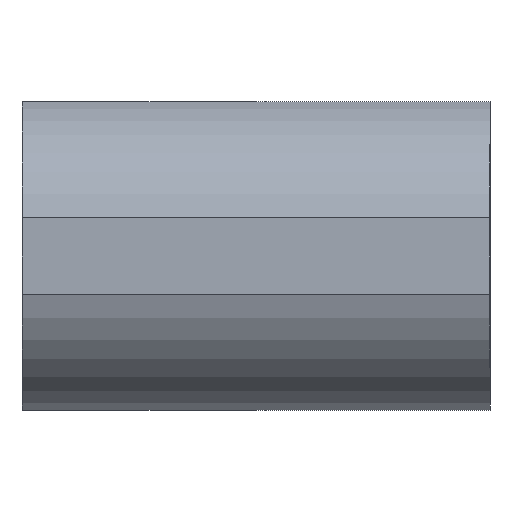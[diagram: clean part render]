
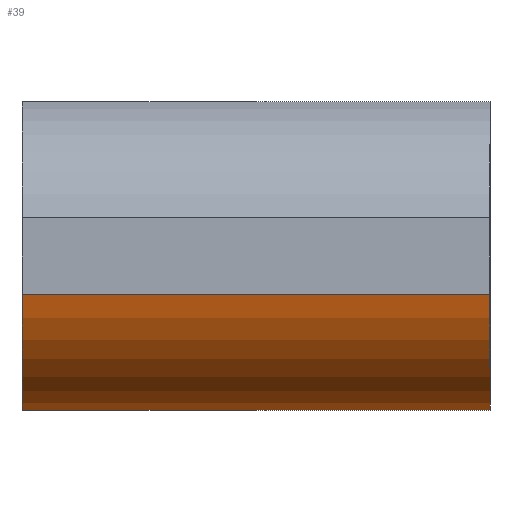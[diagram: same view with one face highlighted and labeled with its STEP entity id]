
A CAD part, left-side view. The second image highlights one B-rep face of the part: STEP entity #39.
In plain terms, the highlighted cylindrical face has radius 17 mm (diameter 34 mm), a partial arc.
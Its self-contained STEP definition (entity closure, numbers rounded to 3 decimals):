
#15 = ORIENTED_EDGE ( 'NONE', *, *, #566, .T. ) ;
#39 = ADVANCED_FACE ( 'NONE', ( #329 ), #294, .T. ) ;
#40 = CARTESIAN_POINT ( 'NONE',  ( -4.093, 25., -16.5 ) ) ;
#71 = VECTOR ( 'NONE', #583, 1000. ) ;
#86 = CARTESIAN_POINT ( 'NONE',  ( 0., 25., 0. ) ) ;
#98 = VERTEX_POINT ( 'NONE', #333 ) ;
#101 = ORIENTED_EDGE ( 'NONE', *, *, #547, .T. ) ;
#114 = DIRECTION ( 'NONE',  ( 0., 0., -1. ) ) ;
#131 = CARTESIAN_POINT ( 'NONE',  ( -16.5, 25., -4.093 ) ) ;
#152 = CARTESIAN_POINT ( 'NONE',  ( -4.093, -25., -16.5 ) ) ;
#157 = CIRCLE ( 'NONE', #279, 17. ) ;
#178 = DIRECTION ( 'NONE',  ( 0., 1., 0. ) ) ;
#179 = ORIENTED_EDGE ( 'NONE', *, *, #273, .F. ) ;
#208 = EDGE_LOOP ( 'NONE', ( #179, #362, #101, #15 ) ) ;
#223 = LINE ( 'NONE', #40, #71 ) ;
#232 = DIRECTION ( 'NONE',  ( 0., 1., 0. ) ) ;
#271 = VERTEX_POINT ( 'NONE', #131 ) ;
#273 = EDGE_CURVE ( 'NONE', #98, #271, #488, .T. ) ;
#279 = AXIS2_PLACEMENT_3D ( 'NONE', #436, #309, #573 ) ;
#294 = CYLINDRICAL_SURFACE ( 'NONE', #479, 17. ) ;
#309 = DIRECTION ( 'NONE',  ( 0., 1., 0. ) ) ;
#329 = FACE_OUTER_BOUND ( 'NONE', #208, .T. ) ;
#333 = CARTESIAN_POINT ( 'NONE',  ( -4.093, 25., -16.5 ) ) ;
#343 = CARTESIAN_POINT ( 'NONE',  ( -16.5, 25., -4.093 ) ) ;
#362 = ORIENTED_EDGE ( 'NONE', *, *, #401, .T. ) ;
#401 = EDGE_CURVE ( 'NONE', #98, #469, #223, .T. ) ;
#434 = VECTOR ( 'NONE', #178, 1000. ) ;
#436 = CARTESIAN_POINT ( 'NONE',  ( 0., -25., 0. ) ) ;
#440 = AXIS2_PLACEMENT_3D ( 'NONE', #86, #232, #542 ) ;
#451 = CARTESIAN_POINT ( 'NONE',  ( -16.5, -25., -4.093 ) ) ;
#469 = VERTEX_POINT ( 'NONE', #152 ) ;
#474 = LINE ( 'NONE', #343, #434 ) ;
#479 = AXIS2_PLACEMENT_3D ( 'NONE', #555, #546, #114 ) ;
#488 = CIRCLE ( 'NONE', #440, 17. ) ;
#492 = VERTEX_POINT ( 'NONE', #451 ) ;
#542 = DIRECTION ( 'NONE',  ( 0., 0., 1. ) ) ;
#546 = DIRECTION ( 'NONE',  ( 0., -1., 0. ) ) ;
#547 = EDGE_CURVE ( 'NONE', #469, #492, #157, .T. ) ;
#555 = CARTESIAN_POINT ( 'NONE',  ( 0., 25., 0. ) ) ;
#566 = EDGE_CURVE ( 'NONE', #492, #271, #474, .T. ) ;
#573 = DIRECTION ( 'NONE',  ( 0., 0., 1. ) ) ;
#583 = DIRECTION ( 'NONE',  ( 0., -1., 0. ) ) ;
